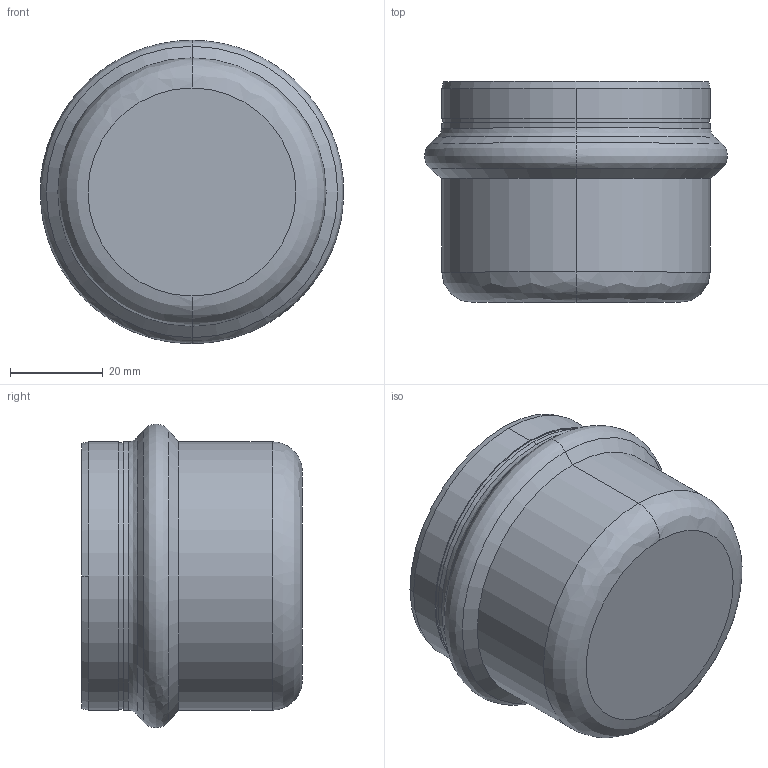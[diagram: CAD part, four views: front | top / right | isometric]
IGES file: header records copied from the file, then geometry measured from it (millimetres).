
Start section: Elysium IGES Interface
Global section: file name: C:\3d modellen sudo\C-Pr VP\SP8301VW\8301VW54.igs; native system: CoCreate Modeling 17.00A  17-Jun-2010; preprocessor: CoCreate IGES_3D V2.2; author: Unknown; organization: Unknown; date: 20130305.133057; units: millimetre
Bounding box: 65.25 x 47.5 x 65.3 mm (x, y, z)
Volume: 23358.3 mm3; surface area: 21978.8 mm2
Topology: 1 solids, 1 shells, 44 faces, 94 edges, 58 vertices
Faces by surface type: bspline 44
